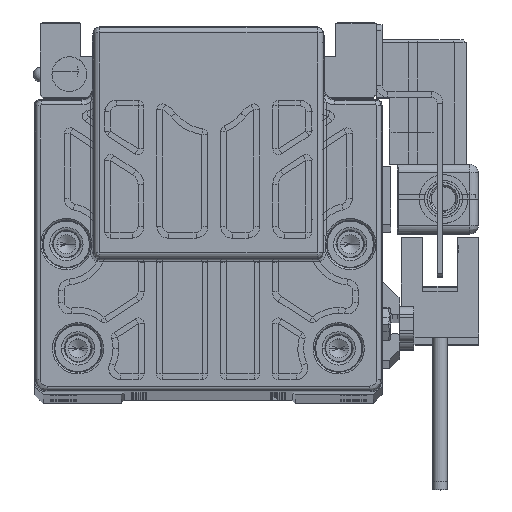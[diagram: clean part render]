
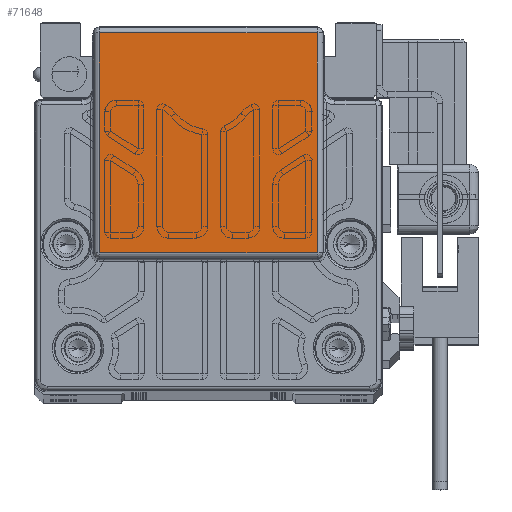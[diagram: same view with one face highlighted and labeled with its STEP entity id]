
A CAD part, top view. The second image highlights one B-rep face of the part: STEP entity #71648.
In plain terms, the highlighted planar face has unit normal (0, 0, 1) as drawn and (0, 0, -1) by its records, which use the part's own axes.
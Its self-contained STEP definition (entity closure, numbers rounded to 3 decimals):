
#5328 = VECTOR ( 'NONE', #42109, 1000. ) ;
#6424 = CARTESIAN_POINT ( 'NONE',  ( -18.808, 24.518, -143. ) ) ;
#7752 = VERTEX_POINT ( 'NONE', #6424 ) ;
#8020 = LINE ( 'NONE', #19762, #54212 ) ;
#8748 = ORIENTED_EDGE ( 'NONE', *, *, #58848, .F. ) ;
#13457 = VERTEX_POINT ( 'NONE', #29056 ) ;
#14693 = ORIENTED_EDGE ( 'NONE', *, *, #35927, .F. ) ;
#18588 = EDGE_CURVE ( 'NONE', #13457, #73838, #50138, .T. ) ;
#19762 = CARTESIAN_POINT ( 'NONE',  ( -18.808, 31., -143. ) ) ;
#22591 = DIRECTION ( 'NONE',  ( 0., 1., 0. ) ) ;
#22991 = DIRECTION ( 'NONE',  ( 0., 0., -1. ) ) ;
#24480 = VERTEX_POINT ( 'NONE', #72353 ) ;
#26286 = LINE ( 'NONE', #66783, #29825 ) ;
#27699 = DIRECTION ( 'NONE',  ( 0., -1., 0. ) ) ;
#29056 = CARTESIAN_POINT ( 'NONE',  ( -18.808, 62.447, -143. ) ) ;
#29825 = VECTOR ( 'NONE', #43291, 1000. ) ;
#35382 = EDGE_LOOP ( 'NONE', ( #14693, #61523, #8748, #40367 ) ) ;
#35927 = EDGE_CURVE ( 'NONE', #24480, #73838, #26286, .T. ) ;
#40367 = ORIENTED_EDGE ( 'NONE', *, *, #18588, .T. ) ;
#42109 = DIRECTION ( 'NONE',  ( 1., 0., 0. ) ) ;
#43291 = DIRECTION ( 'NONE',  ( 0., 1., 0. ) ) ;
#47783 = LINE ( 'NONE', #70900, #5328 ) ;
#50138 = LINE ( 'NONE', #67958, #67050 ) ;
#51332 = PLANE ( 'NONE',  #73492 ) ;
#52806 = CARTESIAN_POINT ( 'NONE',  ( 18.808, 62.447, -143. ) ) ;
#54212 = VECTOR ( 'NONE', #27699, 1000. ) ;
#57049 = FACE_OUTER_BOUND ( 'NONE', #35382, .T. ) ;
#58848 = EDGE_CURVE ( 'NONE', #13457, #7752, #8020, .T. ) ;
#61523 = ORIENTED_EDGE ( 'NONE', *, *, #66779, .F. ) ;
#66779 = EDGE_CURVE ( 'NONE', #7752, #24480, #47783, .T. ) ;
#66783 = CARTESIAN_POINT ( 'NONE',  ( 18.808, 24.5, -143. ) ) ;
#67050 = VECTOR ( 'NONE', #69082, 1000. ) ;
#67958 = CARTESIAN_POINT ( 'NONE',  ( 19., 62.447, -143. ) ) ;
#69082 = DIRECTION ( 'NONE',  ( 1., 0., 0. ) ) ;
#70900 = CARTESIAN_POINT ( 'NONE',  ( 19., 24.518, -143. ) ) ;
#71648 = ADVANCED_FACE ( 'NONE', ( #57049 ), #51332, .T. ) ;
#72353 = CARTESIAN_POINT ( 'NONE',  ( 18.808, 24.518, -143. ) ) ;
#73492 = AXIS2_PLACEMENT_3D ( 'NONE', #74440, #22991, #22591 ) ;
#73838 = VERTEX_POINT ( 'NONE', #52806 ) ;
#74440 = CARTESIAN_POINT ( 'NONE',  ( 19., 24.5, -143. ) ) ;
